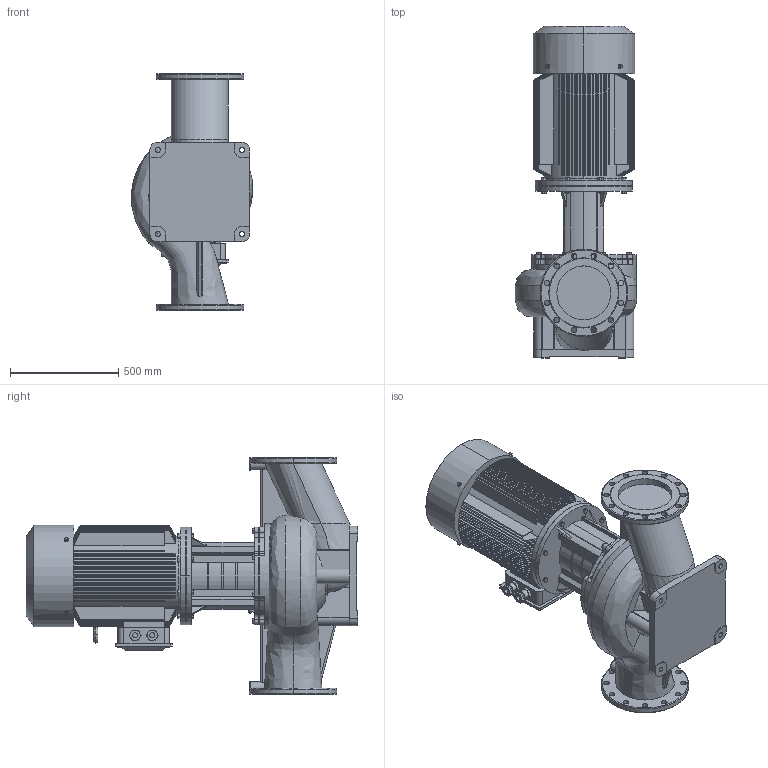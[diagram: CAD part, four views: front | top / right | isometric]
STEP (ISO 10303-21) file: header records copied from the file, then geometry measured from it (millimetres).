
FILE_DESCRIPTION (( 'STEP AP203' ), '1' );
FILE_NAME ('TD250-19G／4.STEP', '2026-09-07T03:22:09', ( '' ), ( '' ), 'SwSTEP 2.0', 'SolidWorks 2020', '' );
FILE_SCHEMA (( 'CONFIG_CONTROL_DESIGN' ));
Products named in the file (1): TD250-19Gㄞ4
Bounding box: 560.99 x 1536 x 1100 mm (x, y, z)
Volume: 246371014.1 mm3; surface area: 8196622.6 mm2
Topology: 1 solids, 13 shells, 1782 faces, 4505 edges, 2848 vertices
Faces by surface type: plane 767, cylinder 478, cone 442, torus 54, bspline 41
Entity records: 77110 total; most frequent: CARTESIAN_POINT 35135, ORIENTED_EDGE 9006, DIRECTION 8466, EDGE_CURVE 4503, AXIS2_PLACEMENT_3D 3373, VERTEX_POINT 2848, EDGE_LOOP 1959, FACE_OUTER_BOUND 1782
